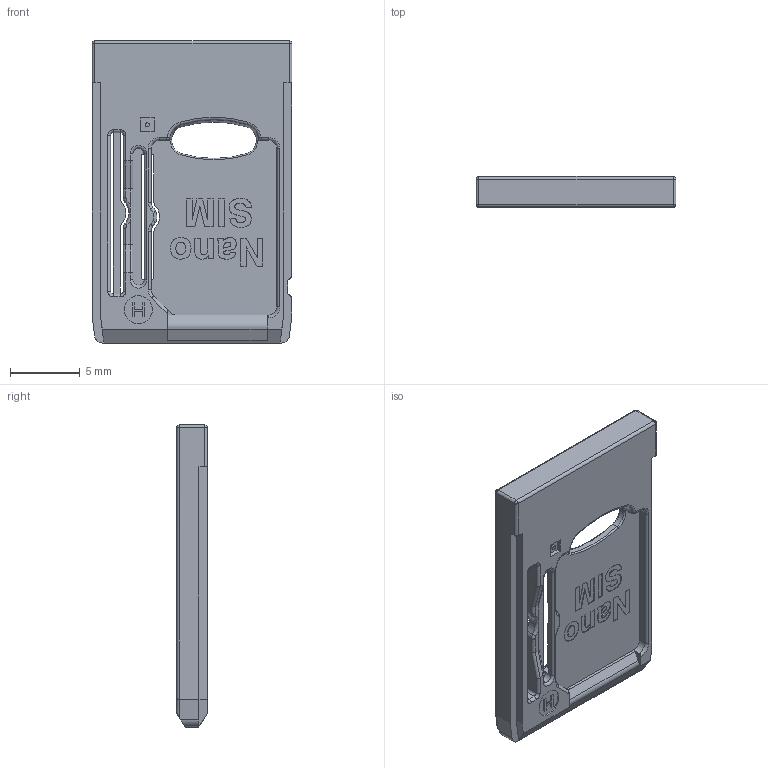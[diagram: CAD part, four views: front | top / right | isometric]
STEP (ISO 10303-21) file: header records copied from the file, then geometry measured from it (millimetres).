
FILE_DESCRIPTION((''),'2;1');
FILE_NAME('115U-T012_C_2','2025-06-24T',('fros.liao'),(''),'CREO PARAMETRIC BY PTC INC, 2015080','CREO PARAMETRIC BY PTC INC, 2015080','');
FILE_SCHEMA(('CONFIG_CONTROL_DESIGN'));
Length unit declared in the file: millimetre
Products named in the file (1): 115U-T012_C_2
Bounding box: 14.3 x 2.2 x 21.6 mm (x, y, z)
Volume: 335.4 mm3; surface area: 869.6 mm2
Topology: 1 solids, 1 shells, 545 faces, 1473 edges, 936 vertices
Faces by surface type: plane 205, extrusion 156, cylinder 109, torus 53, sphere 12, cone 6, bspline 4
Entity records: 18004 total; most frequent: CARTESIAN_POINT 4823, ORIENTED_EDGE 2926, DIRECTION 2322, EDGE_CURVE 1463, VECTOR 956, VERTEX_POINT 936, LINE 800, AXIS2_PLACEMENT_3D 683
